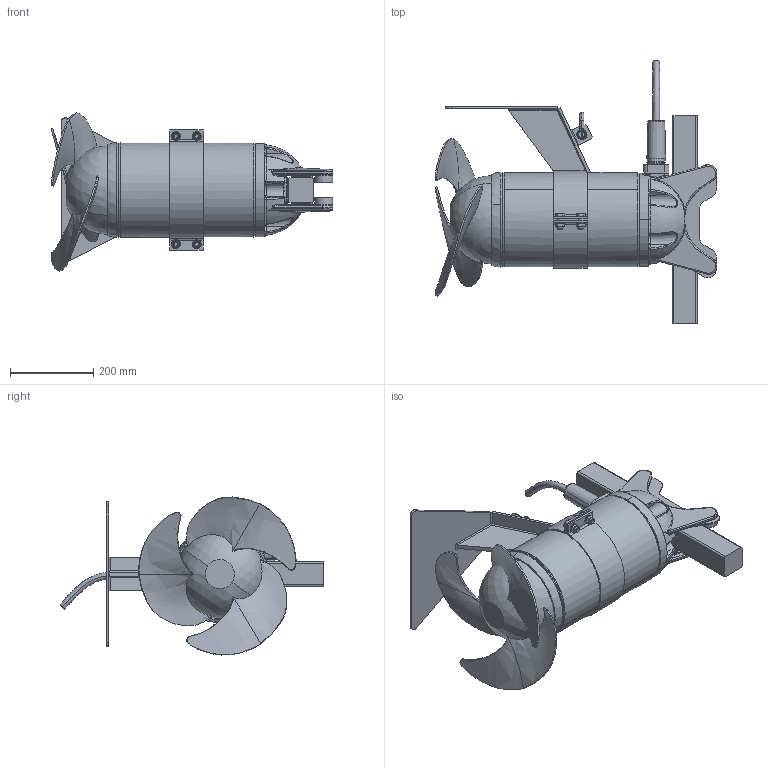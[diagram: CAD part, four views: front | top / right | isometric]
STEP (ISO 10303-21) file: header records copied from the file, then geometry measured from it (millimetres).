
FILE_DESCRIPTION (( 'STEP AP214' ), '1' );
FILE_NAME ('RW400 Vkt.60 with vortex breaker_MSD.STEP', '2017-03-31T08:50:05', ( '' ), ( '' ), 'SwSTEP 2.0', 'SolidWorks 2017', '' );
FILE_SCHEMA (( 'AUTOMOTIVE_DESIGN' ));
Length unit declared in the file: millimetre
Products named in the file (1): RW400 Vkt.60 with vortex breaker_MSD
Bounding box: 676.22 x 633.26 x 379.14 mm (x, y, z)
Volume: 23091251 mm3; surface area: 1189097.9 mm2
Topology: 3 solids, 10 shells, 972 faces, 2417 edges, 1489 vertices
Faces by surface type: plane 370, cylinder 191, bspline 140, torus 128, cone 95, sphere 48
Entity records: 137862 total; most frequent: CARTESIAN_POINT 105329, ORIENTED_EDGE 4734, DIRECTION 4319, EDGE_CURVE 2367, AXIS2_PLACEMENT_3D 1709, VERTEX_POINT 1471, EDGE_LOOP 1050, UNCERTAINTY_MEASURE_WITH_UNIT 977
